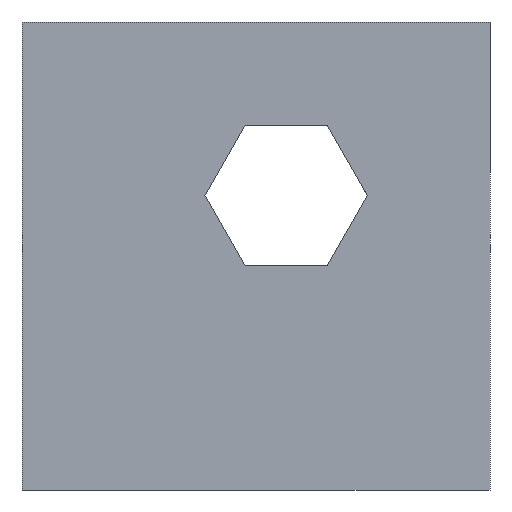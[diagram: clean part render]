
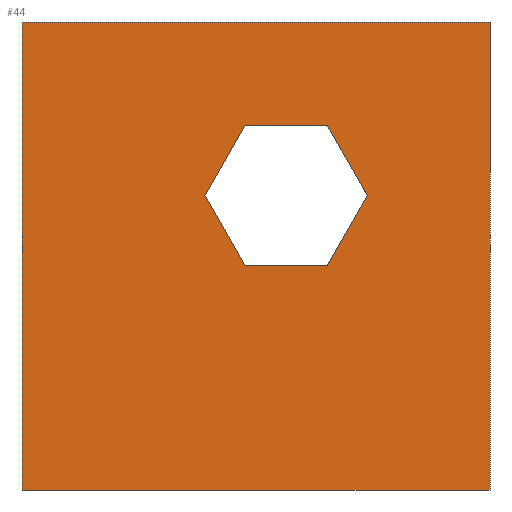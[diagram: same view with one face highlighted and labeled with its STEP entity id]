
A CAD part, left-side view. The second image highlights one B-rep face of the part: STEP entity #44.
In plain terms, the highlighted planar face has unit normal (-1, 0, 0).
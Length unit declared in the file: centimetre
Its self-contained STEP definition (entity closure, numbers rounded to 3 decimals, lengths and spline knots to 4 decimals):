
#18 = ORIENTED_EDGE ( 'NONE', *, *, #124, .T. ) ;
#27 = VERTEX_POINT ( 'NONE', #728 ) ;
#39 = EDGE_CURVE ( 'NONE', #917, #700, #820, .T. ) ;
#40 = LINE ( 'NONE', #371, #776 ) ;
#44 = ADVANCED_FACE ( 'NONE', ( #378, #53 ), #305, .F. ) ;
#53 = FACE_OUTER_BOUND ( 'NONE', #780, .T. ) ;
#74 = CARTESIAN_POINT ( 'NONE',  ( 0., 523.2591, 779.5561 ) ) ;
#76 = CARTESIAN_POINT ( 'NONE',  ( 0., 608.9905, 629.9111 ) ) ;
#85 = EDGE_CURVE ( 'NONE', #200, #672, #903, .T. ) ;
#109 = EDGE_CURVE ( 'NONE', #260, #27, #1076, .T. ) ;
#113 = VERTEX_POINT ( 'NONE', #407 ) ;
#115 = VECTOR ( 'NONE', #562, 100. ) ;
#116 = LINE ( 'NONE', #1044, #962 ) ;
#124 = EDGE_CURVE ( 'NONE', #672, #350, #140, .T. ) ;
#136 = VECTOR ( 'NONE', #808, 100. ) ;
#140 = LINE ( 'NONE', #399, #661 ) ;
#144 = LINE ( 'NONE', #894, #115 ) ;
#156 = ORIENTED_EDGE ( 'NONE', *, *, #39, .F. ) ;
#176 = EDGE_CURVE ( 'NONE', #260, #917, #913, .T. ) ;
#200 = VERTEX_POINT ( 'NONE', #729 ) ;
#260 = VERTEX_POINT ( 'NONE', #976 ) ;
#302 = DIRECTION ( 'NONE',  ( 0., -1., 0. ) ) ;
#305 = PLANE ( 'NONE',  #383 ) ;
#307 = DIRECTION ( 'NONE',  ( 0., 1., 0. ) ) ;
#318 = DIRECTION ( 'NONE',  ( 0., 0., -1. ) ) ;
#319 = CARTESIAN_POINT ( 'NONE',  ( 0., 523.2591, 479.1125 ) ) ;
#339 = DIRECTION ( 'NONE',  ( 0., 0.494, 0.869 ) ) ;
#350 = VERTEX_POINT ( 'NONE', #833 ) ;
#358 = VERTEX_POINT ( 'NONE', #74 ) ;
#371 = CARTESIAN_POINT ( 'NONE',  ( 0., 523.2591, 779.5561 ) ) ;
#376 = ORIENTED_EDGE ( 'NONE', *, *, #109, .T. ) ;
#378 = FACE_BOUND ( 'NONE', #752, .T. ) ;
#383 = AXIS2_PLACEMENT_3D ( 'NONE', #654, #1058, #985 ) ;
#399 = CARTESIAN_POINT ( 'NONE',  ( 0., 347.7996, 479.1125 ) ) ;
#406 = ORIENTED_EDGE ( 'NONE', *, *, #85, .T. ) ;
#407 = CARTESIAN_POINT ( 'NONE',  ( 0., 347.7996, 779.5561 ) ) ;
#427 = LINE ( 'NONE', #319, #1054 ) ;
#459 = VECTOR ( 'NONE', #302, 100. ) ;
#464 = ORIENTED_EDGE ( 'NONE', *, *, #725, .T. ) ;
#469 = CARTESIAN_POINT ( 'NONE',  ( 0., 0., 1000. ) ) ;
#487 = ORIENTED_EDGE ( 'NONE', *, *, #1023, .T. ) ;
#492 = DIRECTION ( 'NONE',  ( 0., -0.497, 0.868 ) ) ;
#515 = VECTOR ( 'NONE', #826, 100. ) ;
#562 = DIRECTION ( 'NONE',  ( 0., -1., 0. ) ) ;
#566 = EDGE_CURVE ( 'NONE', #113, #200, #116, .T. ) ;
#571 = ORIENTED_EDGE ( 'NONE', *, *, #849, .T. ) ;
#585 = VECTOR ( 'NONE', #492, 100. ) ;
#591 = CARTESIAN_POINT ( 'NONE',  ( 0., 608.9905, 629.9111 ) ) ;
#617 = DIRECTION ( 'NONE',  ( 0., -0.497, -0.868 ) ) ;
#649 = CARTESIAN_POINT ( 'NONE',  ( 0., 1000., 1000. ) ) ;
#654 = CARTESIAN_POINT ( 'NONE',  ( 0., 1000., 1000. ) ) ;
#661 = VECTOR ( 'NONE', #307, 100. ) ;
#672 = VERTEX_POINT ( 'NONE', #936 ) ;
#700 = VERTEX_POINT ( 'NONE', #744 ) ;
#708 = EDGE_CURVE ( 'NONE', #358, #113, #40, .T. ) ;
#725 = EDGE_CURVE ( 'NONE', #27, #700, #144, .T. ) ;
#728 = CARTESIAN_POINT ( 'NONE',  ( 0., 1000., 0. ) ) ;
#729 = CARTESIAN_POINT ( 'NONE',  ( 0., 262.0681, 629.9111 ) ) ;
#734 = ORIENTED_EDGE ( 'NONE', *, *, #708, .T. ) ;
#735 = CARTESIAN_POINT ( 'NONE',  ( 0., 1000., 1000. ) ) ;
#744 = CARTESIAN_POINT ( 'NONE',  ( 0., 0., 0. ) ) ;
#752 = EDGE_LOOP ( 'NONE', ( #406, #18, #487, #571, #734, #1075 ) ) ;
#756 = LINE ( 'NONE', #76, #585 ) ;
#776 = VECTOR ( 'NONE', #824, 100. ) ;
#780 = EDGE_LOOP ( 'NONE', ( #464, #156, #1036, #376 ) ) ;
#808 = DIRECTION ( 'NONE',  ( 0., 0., -1. ) ) ;
#820 = LINE ( 'NONE', #469, #136 ) ;
#824 = DIRECTION ( 'NONE',  ( 0., -1., 0. ) ) ;
#826 = DIRECTION ( 'NONE',  ( 0., 0.494, -0.869 ) ) ;
#833 = CARTESIAN_POINT ( 'NONE',  ( 0., 523.2591, 479.1125 ) ) ;
#849 = EDGE_CURVE ( 'NONE', #947, #358, #756, .T. ) ;
#894 = CARTESIAN_POINT ( 'NONE',  ( 0., 1000., 0. ) ) ;
#903 = LINE ( 'NONE', #1083, #515 ) ;
#913 = LINE ( 'NONE', #735, #459 ) ;
#917 = VERTEX_POINT ( 'NONE', #1102 ) ;
#936 = CARTESIAN_POINT ( 'NONE',  ( 0., 347.7996, 479.1125 ) ) ;
#947 = VERTEX_POINT ( 'NONE', #591 ) ;
#962 = VECTOR ( 'NONE', #617, 100. ) ;
#976 = CARTESIAN_POINT ( 'NONE',  ( 0., 1000., 1000. ) ) ;
#985 = DIRECTION ( 'NONE',  ( 0., 0., -1. ) ) ;
#987 = VECTOR ( 'NONE', #318, 100. ) ;
#1023 = EDGE_CURVE ( 'NONE', #350, #947, #427, .T. ) ;
#1036 = ORIENTED_EDGE ( 'NONE', *, *, #176, .F. ) ;
#1044 = CARTESIAN_POINT ( 'NONE',  ( 0., 347.7996, 779.5561 ) ) ;
#1054 = VECTOR ( 'NONE', #339, 100. ) ;
#1058 = DIRECTION ( 'NONE',  ( 1., 0., 0. ) ) ;
#1075 = ORIENTED_EDGE ( 'NONE', *, *, #566, .T. ) ;
#1076 = LINE ( 'NONE', #649, #987 ) ;
#1083 = CARTESIAN_POINT ( 'NONE',  ( 0., 262.0681, 629.9111 ) ) ;
#1102 = CARTESIAN_POINT ( 'NONE',  ( 0., 0., 1000. ) ) ;
